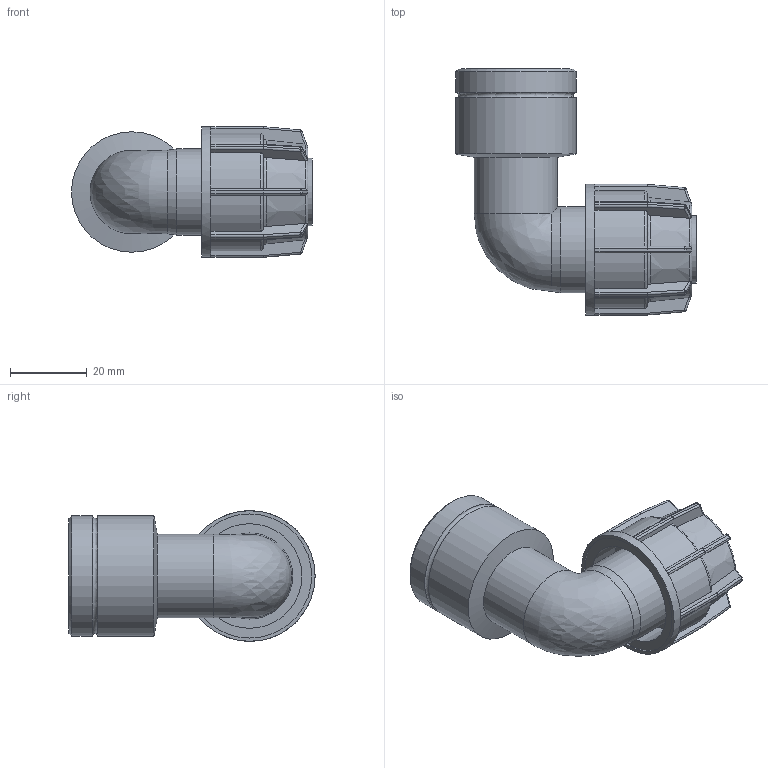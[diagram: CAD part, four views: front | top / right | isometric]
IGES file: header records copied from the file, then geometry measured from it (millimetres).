
Global section: file name: 041507016007.ipt; native system: Autodesk Inventor 2015; preprocessor: unknown; author: KIM; date: 20180409.130654; units: millimetre
Bounding box: 62.68 x 64 x 34 mm (x, y, z)
Volume: 27102.6 mm3; surface area: 16740.9 mm2
Topology: 1 solids, 1 shells, 275 faces, 662 edges, 384 vertices
Faces by surface type: plane 128, cylinder 78, sphere 32, revolution 25, cone 11, bspline 1
Full cylindrical faces by diameter (mm): 17.6 x1, 21.705 x1, 22.4 x1, 31.352 x2, 34 x1
